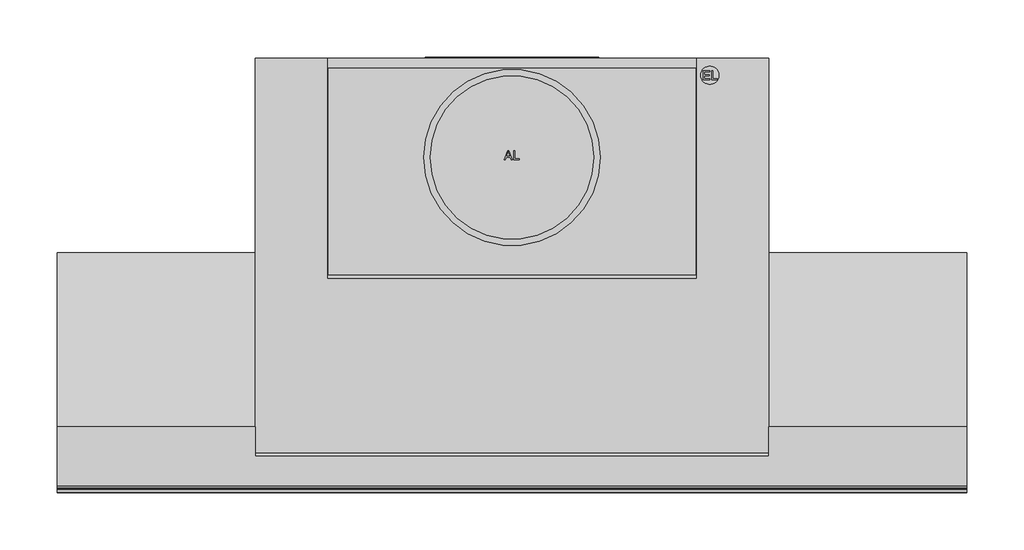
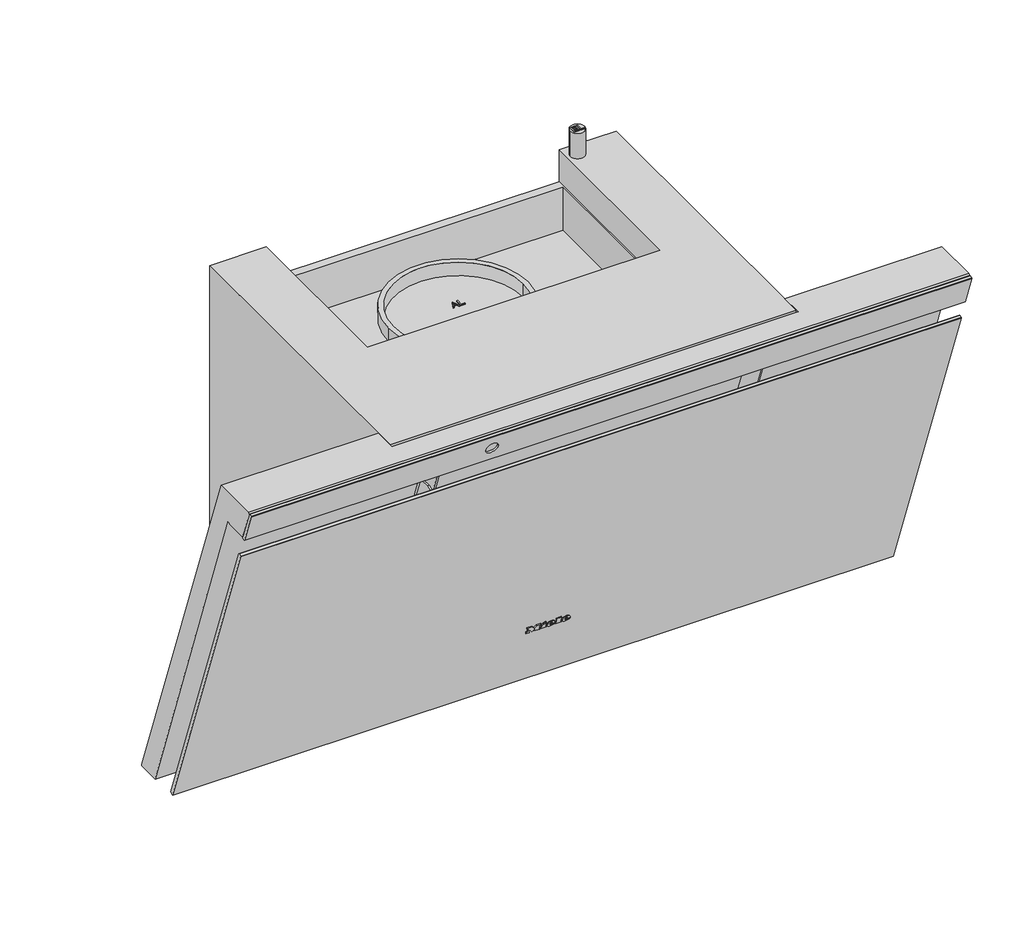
# Not in any storey: 1 proxy.
"""IFC4 building model written with IfcOpenShell, lengths in millimetres."""

from ifc_helpers import new_model, si_unit, origin, place, context, project, spatial, transform, mapped, element, save
from components import specialty_equipment_f54dbeaa

model = new_model("IFC4")

# Units and contexts
model_context = context("Model", 3, world=origin())
ifc_project = project(units=[si_unit("LENGTHUNIT", "METRE", prefix="MILLI")], contexts=[model_context])

# Site, building
site = spatial("IfcSite", under=ifc_project)
building = spatial("IfcBuilding", under=site)

# Proxy
placement = place(None, origin())
specialty_equipment_shape = specialty_equipment_f54dbeaa(model_context)
element("IfcBuildingElementProxy", 1, Name="12534040_D_DAH4870_GRGR : 28H4870G_D_12534040_DAH4870_GRGR", ObjectType="12534040_D_DAH4870_GRGR : 28H4870G_D_12534040_DAH4870_GRGR", at=placement, inside=building, context=model_context, shape_type="MappedRepresentation", body=[
    mapped(specialty_equipment_shape, transform((0.0, 0.0, 0.0), x_axis=(1.0, 0.0, 0.0), y_axis=(0.0, 1.0, 0.0), z_axis=(0.0, 0.0, 1.0))),
])

save(model, "model.ifc")
